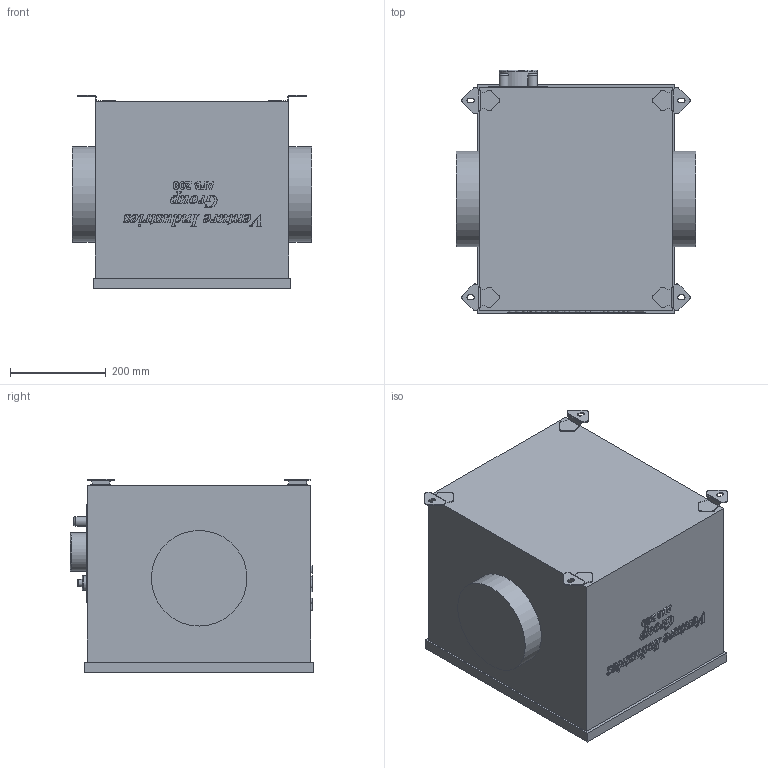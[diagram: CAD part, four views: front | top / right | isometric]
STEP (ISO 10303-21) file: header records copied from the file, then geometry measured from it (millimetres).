
FILE_DESCRIPTION(/* description */ (''),/* implementation_level */ '2;1');
FILE_NAME(/* name */ 'D:\Piotr - Dokumenty\Modele uproszczone\AFB\AFB 200\AFB_200.stp',/* time_stamp */ '2021-03-19T15:38:10+01:00',/* author */ ('Piotr.Nowotniak'),/* organization */ (''),/* preprocessor_version */ 'ST-DEVELOPER v18',/* originating_system */ 'Autodesk Inventor 2020',/* authorisation */ '');
FILE_SCHEMA (('AUTOMOTIVE_DESIGN { 1 0 10303 214 3 1 1 }'));
Length unit declared in the file: millimetre
Products named in the file (1): AFB_200
Bounding box: 500.8 x 510 x 404.46 mm (x, y, z)
Volume: 77668279.4 mm3; surface area: 1178329.4 mm2
Topology: 1 solids, 1 shells, 758 faces, 2089 edges, 1386 vertices
Faces by surface type: bspline 365, plane 305, cylinder 83, torus 5
Full cylindrical faces by diameter (mm): 15 x1, 20.2 x2, 30 x1, 80 x1, 200 x2
Entity records: 30222 total; most frequent: CARTESIAN_POINT 12974, ORIENTED_EDGE 4178, DIRECTION 2308, EDGE_CURVE 2089, VERTEX_POINT 1386, LINE 1198, VECTOR 1198, EDGE_LOOP 819
